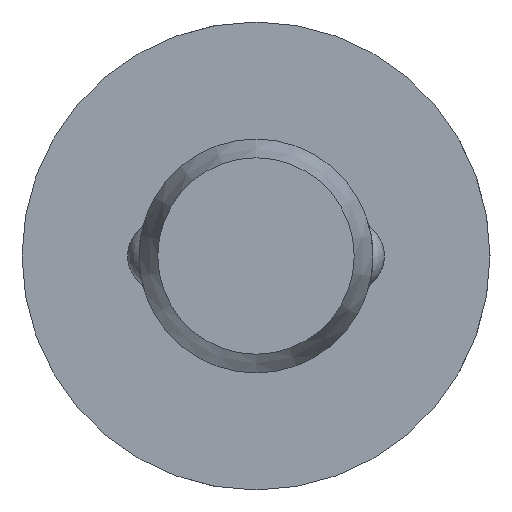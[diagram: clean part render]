
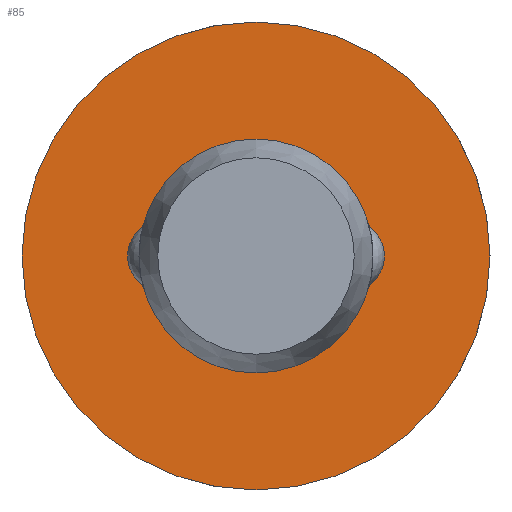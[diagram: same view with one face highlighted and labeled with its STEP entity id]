
A CAD part, left-side view. The second image highlights one B-rep face of the part: STEP entity #85.
In plain terms, the highlighted planar face has unit normal (-1, 0, 0).
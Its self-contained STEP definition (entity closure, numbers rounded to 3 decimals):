
#85 = ADVANCED_FACE( '', ( #131, #132 ), #133, .F. );
#131 = FACE_OUTER_BOUND( '', #204, .T. );
#132 = FACE_BOUND( '', #205, .T. );
#133 = PLANE( '', #206 );
#204 = EDGE_LOOP( '', ( #322 ) );
#205 = EDGE_LOOP( '', ( #323 ) );
#206 = AXIS2_PLACEMENT_3D( '', #324, #325, #326 );
#322 = ORIENTED_EDGE( '', *, *, #470, .F. );
#323 = ORIENTED_EDGE( '', *, *, #467, .T. );
#324 = CARTESIAN_POINT( '', ( 31., 2.5, 0. ) );
#325 = DIRECTION( '', ( 1., 0., 0. ) );
#326 = DIRECTION( '', ( 0., 0., -1. ) );
#467 = EDGE_CURVE( '', #541, #541, #542, .T. );
#470 = EDGE_CURVE( '', #547, #547, #548, .T. );
#541 = VERTEX_POINT( '', #749 );
#542 = CIRCLE( '', #750, 2.5 );
#547 = VERTEX_POINT( '', #801 );
#548 = CIRCLE( '', #802, 5. );
#749 = CARTESIAN_POINT( '', ( 31., 0., -2.5 ) );
#750 = AXIS2_PLACEMENT_3D( '', #881, #882, #883 );
#801 = CARTESIAN_POINT( '', ( 31., 0., -5. ) );
#802 = AXIS2_PLACEMENT_3D( '', #884, #885, #886 );
#881 = CARTESIAN_POINT( '', ( 31., 0., 0. ) );
#882 = DIRECTION( '', ( 1., 0., 0. ) );
#883 = DIRECTION( '', ( 0., 0., -1. ) );
#884 = CARTESIAN_POINT( '', ( 31., 0., 0. ) );
#885 = DIRECTION( '', ( 1., 0., 0. ) );
#886 = DIRECTION( '', ( 0., 0., -1. ) );
